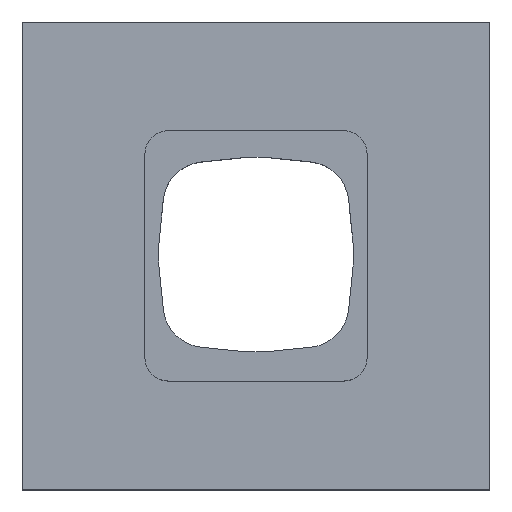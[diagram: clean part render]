
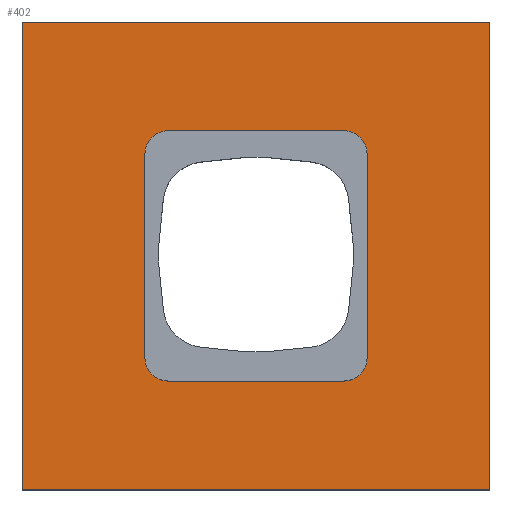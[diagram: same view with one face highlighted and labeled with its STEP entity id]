
A CAD part, top view. The second image highlights one B-rep face of the part: STEP entity #402.
In plain terms, the highlighted planar face has unit normal (0, 0, 1).
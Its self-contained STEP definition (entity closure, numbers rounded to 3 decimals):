
#293=CARTESIAN_POINT('',(0.,0.,-2.3));
#294=DIRECTION('',(0.,0.,1.));
#295=DIRECTION('',(1.,0.,0.));
#296=AXIS2_PLACEMENT_3D('',#293,#294,#295);
#297=PLANE('',#296);
#298=CARTESIAN_POINT('',(-7.982,-10.514,-2.3));
#299=VERTEX_POINT('',#298);
#300=CARTESIAN_POINT('',(12.018,-10.514,-2.3));
#301=VERTEX_POINT('',#300);
#302=CARTESIAN_POINT('',(-7.982,-10.514,-2.3));
#303=DIRECTION('',(1.,-0.,0.));
#304=VECTOR('',#303,20.);
#305=LINE('',#302,#304);
#306=EDGE_CURVE('',#299,#301,#305,.T.);
#307=ORIENTED_EDGE('',*,*,#306,.T.);
#308=CARTESIAN_POINT('',(12.018,9.486,-2.3));
#309=VERTEX_POINT('',#308);
#310=CARTESIAN_POINT('',(12.018,-10.514,-2.3));
#311=DIRECTION('',(0.,1.,0.));
#312=VECTOR('',#311,20.);
#313=LINE('',#310,#312);
#314=EDGE_CURVE('',#301,#309,#313,.T.);
#315=ORIENTED_EDGE('',*,*,#314,.T.);
#316=CARTESIAN_POINT('',(-7.982,9.486,-2.3));
#317=VERTEX_POINT('',#316);
#318=CARTESIAN_POINT('',(12.018,9.486,-2.3));
#319=DIRECTION('',(-1.,0.,0.));
#320=VECTOR('',#319,20.);
#321=LINE('',#318,#320);
#322=EDGE_CURVE('',#309,#317,#321,.T.);
#323=ORIENTED_EDGE('',*,*,#322,.T.);
#324=CARTESIAN_POINT('',(-7.982,9.486,-2.3));
#325=DIRECTION('',(0.,-1.,0.));
#326=VECTOR('',#325,20.);
#327=LINE('',#324,#326);
#328=EDGE_CURVE('',#317,#299,#327,.T.);
#329=ORIENTED_EDGE('',*,*,#328,.T.);
#330=EDGE_LOOP('',(#307,#315,#323,#329));
#331=FACE_BOUND('',#330,.T.);
#332=CARTESIAN_POINT('',(5.768,-5.864,-2.3));
#333=VERTEX_POINT('',#332);
#334=CARTESIAN_POINT('',(-1.732,-5.864,-2.3));
#335=VERTEX_POINT('',#334);
#336=CARTESIAN_POINT('',(5.768,-5.864,-2.3));
#337=DIRECTION('',(-1.,-0.,0.));
#338=VECTOR('',#337,7.5);
#339=LINE('',#336,#338);
#340=EDGE_CURVE('',#333,#335,#339,.T.);
#341=ORIENTED_EDGE('',*,*,#340,.T.);
#342=CARTESIAN_POINT('',(-2.732,-4.864,-2.3));
#343=VERTEX_POINT('',#342);
#344=CARTESIAN_POINT('',(-1.732,-4.864,-2.3));
#345=DIRECTION('',(-0.,-0.,-1.));
#346=DIRECTION('',(1.,0.,-0.));
#347=AXIS2_PLACEMENT_3D('',#344,#345,#346);
#348=CIRCLE('',#347,1.);
#349=EDGE_CURVE('',#335,#343,#348,.T.);
#350=ORIENTED_EDGE('',*,*,#349,.T.);
#351=CARTESIAN_POINT('',(-2.732,3.836,-2.3));
#352=VERTEX_POINT('',#351);
#353=CARTESIAN_POINT('',(-2.732,-4.864,-2.3));
#354=DIRECTION('',(-0.,1.,0.));
#355=VECTOR('',#354,8.7);
#356=LINE('',#353,#355);
#357=EDGE_CURVE('',#343,#352,#356,.T.);
#358=ORIENTED_EDGE('',*,*,#357,.T.);
#359=CARTESIAN_POINT('',(-1.732,4.836,-2.3));
#360=VERTEX_POINT('',#359);
#361=CARTESIAN_POINT('',(-1.732,3.836,-2.3));
#362=DIRECTION('',(-0.,-0.,-1.));
#363=DIRECTION('',(1.,0.,-0.));
#364=AXIS2_PLACEMENT_3D('',#361,#362,#363);
#365=CIRCLE('',#364,1.);
#366=EDGE_CURVE('',#352,#360,#365,.T.);
#367=ORIENTED_EDGE('',*,*,#366,.T.);
#368=CARTESIAN_POINT('',(5.768,4.836,-2.3));
#369=VERTEX_POINT('',#368);
#370=CARTESIAN_POINT('',(-1.732,4.836,-2.3));
#371=DIRECTION('',(1.,0.,0.));
#372=VECTOR('',#371,7.5);
#373=LINE('',#370,#372);
#374=EDGE_CURVE('',#360,#369,#373,.T.);
#375=ORIENTED_EDGE('',*,*,#374,.T.);
#376=CARTESIAN_POINT('',(6.768,3.836,-2.3));
#377=VERTEX_POINT('',#376);
#378=CARTESIAN_POINT('',(5.768,3.836,-2.3));
#379=DIRECTION('',(-0.,-0.,-1.));
#380=DIRECTION('',(1.,0.,-0.));
#381=AXIS2_PLACEMENT_3D('',#378,#379,#380);
#382=CIRCLE('',#381,1.);
#383=EDGE_CURVE('',#369,#377,#382,.T.);
#384=ORIENTED_EDGE('',*,*,#383,.T.);
#385=CARTESIAN_POINT('',(6.768,-4.864,-2.3));
#386=VERTEX_POINT('',#385);
#387=CARTESIAN_POINT('',(6.768,3.836,-2.3));
#388=DIRECTION('',(0.,-1.,0.));
#389=VECTOR('',#388,8.7);
#390=LINE('',#387,#389);
#391=EDGE_CURVE('',#377,#386,#390,.T.);
#392=ORIENTED_EDGE('',*,*,#391,.T.);
#393=CARTESIAN_POINT('',(5.768,-4.864,-2.3));
#394=DIRECTION('',(-0.,-0.,-1.));
#395=DIRECTION('',(1.,0.,-0.));
#396=AXIS2_PLACEMENT_3D('',#393,#394,#395);
#397=CIRCLE('',#396,1.);
#398=EDGE_CURVE('',#386,#333,#397,.T.);
#399=ORIENTED_EDGE('',*,*,#398,.T.);
#400=EDGE_LOOP('',(#341,#350,#358,#367,#375,#384,#392,#399));
#401=FACE_BOUND('',#400,.T.);
#402=ADVANCED_FACE('',(#331,#401),#297,.T.);
